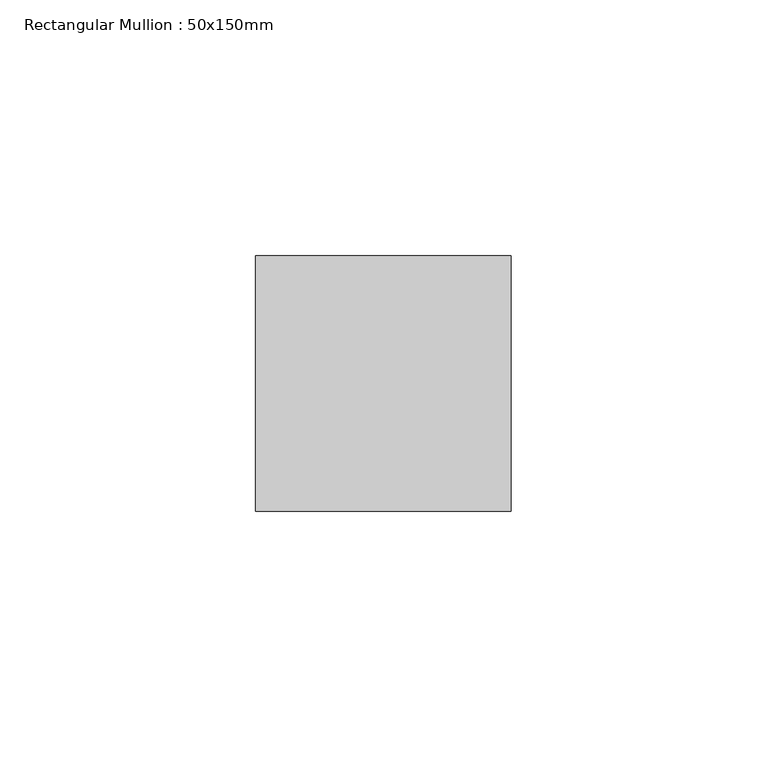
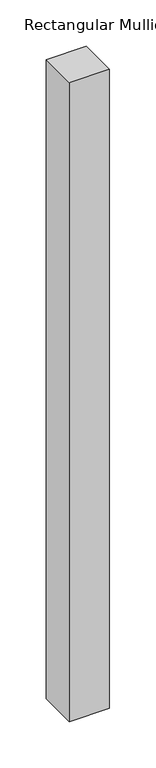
"""IFC4 building model written with IfcOpenShell, lengths in millimetres: member geometry, Rectangular Mullion : 50x150mm."""

from ifc_helpers import new_model, si_unit, frame, origin, place, context, project, spatial, polyline, outline, extrude, source, transform, mapped, element, save


def rectangular_mullion_50x150mm_a37308e9(model_context):
    return source(origin(), model_context, "Body", "SweptSolid", [
        extrude(outline(polyline([(0.0, 25.0), (0.0, -25.0), (-50.0, -25.0), (-50.0, 25.0), (0.0, 25.0)])), frame((0.0, 0.0, -843.3333333), z_axis=(0.0, 0.0, 1.0), x_axis=(1.0, 0.0, 0.0)), (0.0, 0.0, 1.0), 843.3333333),
    ])


if __name__ == "__main__":
    model = new_model("IFC4")
    model_context = context("Model", 3, world=origin())
    ifc_project = project(units=[si_unit("LENGTHUNIT", "METRE", prefix="MILLI")], contexts=[model_context])
    site = spatial("IfcSite", under=ifc_project)
    building = spatial("IfcBuilding", under=site)
    placement = place(None, origin())
    rectangular_mullion_50x150mm_shape = rectangular_mullion_50x150mm_a37308e9(model_context)
    element("IfcMember", 1, ObjectType="Rectangular Mullion : 50x150mm", at=placement, inside=building, context=model_context, shape_type="MappedRepresentation", body=[
        mapped(rectangular_mullion_50x150mm_shape, transform((0.0, 0.0, 0.0), x_axis=(1.0, 0.0, 0.0), y_axis=(0.0, 1.0, 0.0), z_axis=(0.0, 0.0, 1.0))),
    ])
    save(model, "model.ifc")
